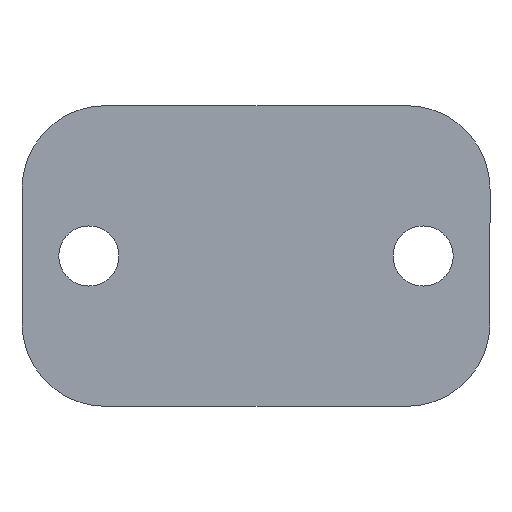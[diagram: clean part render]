
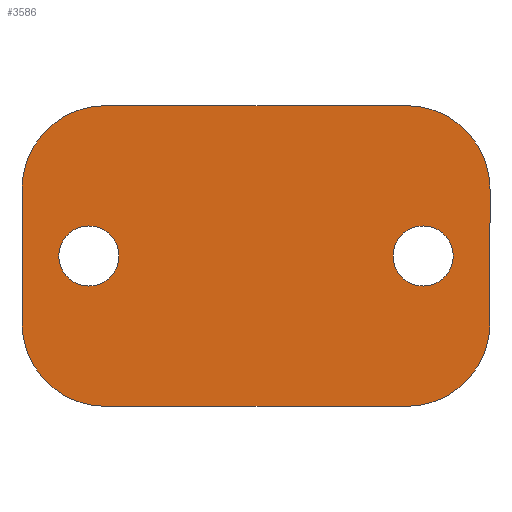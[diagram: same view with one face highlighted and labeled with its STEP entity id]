
A CAD part, front view. The second image highlights one B-rep face of the part: STEP entity #3586.
In plain terms, the highlighted planar face has unit normal (0, -1, 0).
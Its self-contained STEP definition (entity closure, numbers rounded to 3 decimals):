
#13 = ORIENTED_EDGE ( 'NONE', *, *, #4321, .T. ) ;
#87 = DIRECTION ( 'NONE',  ( 0., -1., 0. ) ) ;
#160 = CARTESIAN_POINT ( 'NONE',  ( 70., -20., 20. ) ) ;
#195 = EDGE_CURVE ( 'NONE', #4696, #1802, #767, .T. ) ;
#252 = EDGE_CURVE ( 'NONE', #3757, #1568, #4406, .T. ) ;
#254 = ORIENTED_EDGE ( 'NONE', *, *, #508, .T. ) ;
#285 = DIRECTION ( 'NONE',  ( 1., 0., 0. ) ) ;
#303 = CARTESIAN_POINT ( 'NONE',  ( -70., -20., 20. ) ) ;
#341 = CARTESIAN_POINT ( 'NONE',  ( 45., -20., -20. ) ) ;
#495 = VERTEX_POINT ( 'NONE', #3369 ) ;
#508 = EDGE_CURVE ( 'NONE', #2195, #3917, #3280, .T. ) ;
#530 = EDGE_CURVE ( 'NONE', #4251, #2913, #1977, .T. ) ;
#595 = CARTESIAN_POINT ( 'NONE',  ( 50., -20., 0. ) ) ;
#649 = EDGE_CURVE ( 'NONE', #1568, #5283, #2744, .T. ) ;
#670 = VERTEX_POINT ( 'NONE', #1069 ) ;
#678 = EDGE_CURVE ( 'NONE', #670, #3757, #2716, .T. ) ;
#764 = DIRECTION ( 'NONE',  ( 0., -1., 0. ) ) ;
#767 = CIRCLE ( 'NONE', #2316, 9. ) ;
#775 = VECTOR ( 'NONE', #5112, 1000. ) ;
#973 = CIRCLE ( 'NONE', #4598, 9. ) ;
#990 = CIRCLE ( 'NONE', #5267, 25. ) ;
#1031 = CARTESIAN_POINT ( 'NONE',  ( -50., -20., 0. ) ) ;
#1032 = CARTESIAN_POINT ( 'NONE',  ( -45., -20., -45. ) ) ;
#1069 = CARTESIAN_POINT ( 'NONE',  ( 70., -20., -20. ) ) ;
#1090 = DIRECTION ( 'NONE',  ( 0., -1., 0. ) ) ;
#1141 = CARTESIAN_POINT ( 'NONE',  ( 45., -20., 45. ) ) ;
#1165 = CARTESIAN_POINT ( 'NONE',  ( -50., -20., 0. ) ) ;
#1181 = AXIS2_PLACEMENT_3D ( 'NONE', #2611, #2668, #1826 ) ;
#1219 = ORIENTED_EDGE ( 'NONE', *, *, #2474, .F. ) ;
#1308 = ORIENTED_EDGE ( 'NONE', *, *, #2411, .T. ) ;
#1363 = CARTESIAN_POINT ( 'NONE',  ( 45., -20., 20. ) ) ;
#1462 = CARTESIAN_POINT ( 'NONE',  ( -70., -20., -20. ) ) ;
#1568 = VERTEX_POINT ( 'NONE', #1141 ) ;
#1578 = ORIENTED_EDGE ( 'NONE', *, *, #649, .T. ) ;
#1638 = EDGE_CURVE ( 'NONE', #495, #4011, #973, .T. ) ;
#1701 = CARTESIAN_POINT ( 'NONE',  ( 59., -20., 0. ) ) ;
#1766 = FACE_BOUND ( 'NONE', #1777, .T. ) ;
#1777 = EDGE_LOOP ( 'NONE', ( #1855, #4586 ) ) ;
#1802 = VERTEX_POINT ( 'NONE', #1701 ) ;
#1806 = AXIS2_PLACEMENT_3D ( 'NONE', #4096, #2043, #4983 ) ;
#1826 = DIRECTION ( 'NONE',  ( 1., 0., 0. ) ) ;
#1855 = ORIENTED_EDGE ( 'NONE', *, *, #4592, .F. ) ;
#1929 = ORIENTED_EDGE ( 'NONE', *, *, #678, .T. ) ;
#1953 = AXIS2_PLACEMENT_3D ( 'NONE', #1363, #3461, #3486 ) ;
#1977 = LINE ( 'NONE', #4596, #4126 ) ;
#2023 = CARTESIAN_POINT ( 'NONE',  ( -41., -20., 0. ) ) ;
#2037 = VECTOR ( 'NONE', #4514, 1000. ) ;
#2043 = DIRECTION ( 'NONE',  ( 0., -1., 0. ) ) ;
#2195 = VERTEX_POINT ( 'NONE', #2510 ) ;
#2316 = AXIS2_PLACEMENT_3D ( 'NONE', #4741, #3858, #285 ) ;
#2411 = EDGE_CURVE ( 'NONE', #5283, #2195, #990, .T. ) ;
#2413 = DIRECTION ( 'NONE',  ( 1., 0., 0. ) ) ;
#2474 = EDGE_CURVE ( 'NONE', #4011, #495, #4447, .T. ) ;
#2510 = CARTESIAN_POINT ( 'NONE',  ( -70., -20., 20. ) ) ;
#2518 = DIRECTION ( 'NONE',  ( 1., 0., 0. ) ) ;
#2543 = CARTESIAN_POINT ( 'NONE',  ( 45., -20., -45. ) ) ;
#2611 = CARTESIAN_POINT ( 'NONE',  ( 0., -20., 0. ) ) ;
#2639 = DIRECTION ( 'NONE',  ( 1., 0., 0. ) ) ;
#2668 = DIRECTION ( 'NONE',  ( 0., -1., 0. ) ) ;
#2698 = FACE_OUTER_BOUND ( 'NONE', #4744, .T. ) ;
#2716 = LINE ( 'NONE', #160, #4679 ) ;
#2744 = LINE ( 'NONE', #5370, #2037 ) ;
#2913 = VERTEX_POINT ( 'NONE', #2543 ) ;
#2950 = ORIENTED_EDGE ( 'NONE', *, *, #530, .T. ) ;
#2966 = ORIENTED_EDGE ( 'NONE', *, *, #252, .T. ) ;
#3162 = CIRCLE ( 'NONE', #3886, 9. ) ;
#3263 = ORIENTED_EDGE ( 'NONE', *, *, #5208, .T. ) ;
#3280 = LINE ( 'NONE', #303, #775 ) ;
#3364 = DIRECTION ( 'NONE',  ( 1., 0., 0. ) ) ;
#3369 = CARTESIAN_POINT ( 'NONE',  ( -59., -20., 0. ) ) ;
#3431 = CIRCLE ( 'NONE', #1806, 25. ) ;
#3461 = DIRECTION ( 'NONE',  ( 0., -1., 0. ) ) ;
#3486 = DIRECTION ( 'NONE',  ( 1., 0., 0. ) ) ;
#3586 = ADVANCED_FACE ( 'NONE', ( #4831, #1766, #2698 ), #3978, .T. ) ;
#3654 = CARTESIAN_POINT ( 'NONE',  ( 41., -20., 0. ) ) ;
#3683 = CARTESIAN_POINT ( 'NONE',  ( -45., -20., 20. ) ) ;
#3735 = DIRECTION ( 'NONE',  ( 0., -1., 0. ) ) ;
#3757 = VERTEX_POINT ( 'NONE', #5278 ) ;
#3813 = CARTESIAN_POINT ( 'NONE',  ( -45., -20., 45. ) ) ;
#3858 = DIRECTION ( 'NONE',  ( 0., -1., 0. ) ) ;
#3886 = AXIS2_PLACEMENT_3D ( 'NONE', #595, #87, #2639 ) ;
#3890 = CIRCLE ( 'NONE', #5438, 25. ) ;
#3917 = VERTEX_POINT ( 'NONE', #1462 ) ;
#3978 = PLANE ( 'NONE',  #1181 ) ;
#4011 = VERTEX_POINT ( 'NONE', #2023 ) ;
#4078 = DIRECTION ( 'NONE',  ( 0., 0., 1. ) ) ;
#4091 = ORIENTED_EDGE ( 'NONE', *, *, #1638, .F. ) ;
#4096 = CARTESIAN_POINT ( 'NONE',  ( -45., -20., -20. ) ) ;
#4126 = VECTOR ( 'NONE', #5000, 1000. ) ;
#4251 = VERTEX_POINT ( 'NONE', #1032 ) ;
#4321 = EDGE_CURVE ( 'NONE', #3917, #4251, #3431, .T. ) ;
#4406 = CIRCLE ( 'NONE', #1953, 25. ) ;
#4447 = CIRCLE ( 'NONE', #5443, 9. ) ;
#4514 = DIRECTION ( 'NONE',  ( -1., 0., 0. ) ) ;
#4585 = DIRECTION ( 'NONE',  ( 1., 0., 0. ) ) ;
#4586 = ORIENTED_EDGE ( 'NONE', *, *, #195, .F. ) ;
#4592 = EDGE_CURVE ( 'NONE', #1802, #4696, #3162, .T. ) ;
#4596 = CARTESIAN_POINT ( 'NONE',  ( -45., -20., -45. ) ) ;
#4598 = AXIS2_PLACEMENT_3D ( 'NONE', #1165, #764, #2518 ) ;
#4679 = VECTOR ( 'NONE', #4078, 1000. ) ;
#4696 = VERTEX_POINT ( 'NONE', #3654 ) ;
#4741 = CARTESIAN_POINT ( 'NONE',  ( 50., -20., 0. ) ) ;
#4744 = EDGE_LOOP ( 'NONE', ( #13, #2950, #3263, #1929, #2966, #1578, #1308, #254 ) ) ;
#4831 = FACE_BOUND ( 'NONE', #5460, .T. ) ;
#4983 = DIRECTION ( 'NONE',  ( 1., 0., 0. ) ) ;
#5000 = DIRECTION ( 'NONE',  ( 1., 0., 0. ) ) ;
#5112 = DIRECTION ( 'NONE',  ( 0., 0., -1. ) ) ;
#5208 = EDGE_CURVE ( 'NONE', #2913, #670, #3890, .T. ) ;
#5267 = AXIS2_PLACEMENT_3D ( 'NONE', #3683, #3735, #3364 ) ;
#5278 = CARTESIAN_POINT ( 'NONE',  ( 70., -20., 20. ) ) ;
#5283 = VERTEX_POINT ( 'NONE', #3813 ) ;
#5370 = CARTESIAN_POINT ( 'NONE',  ( -45., -20., 45. ) ) ;
#5438 = AXIS2_PLACEMENT_3D ( 'NONE', #341, #5469, #4585 ) ;
#5443 = AXIS2_PLACEMENT_3D ( 'NONE', #1031, #1090, #2413 ) ;
#5460 = EDGE_LOOP ( 'NONE', ( #1219, #4091 ) ) ;
#5469 = DIRECTION ( 'NONE',  ( 0., -1., 0. ) ) ;
